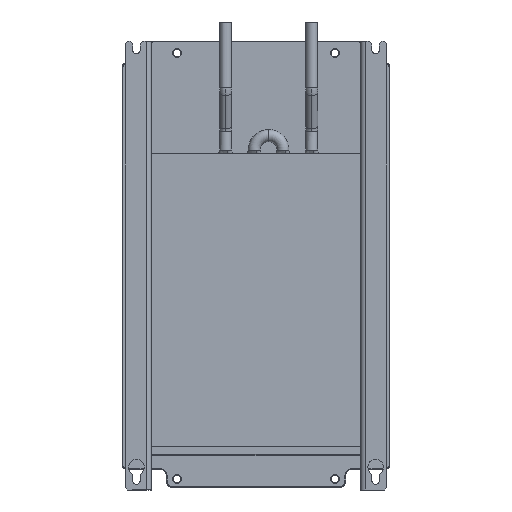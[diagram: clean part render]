
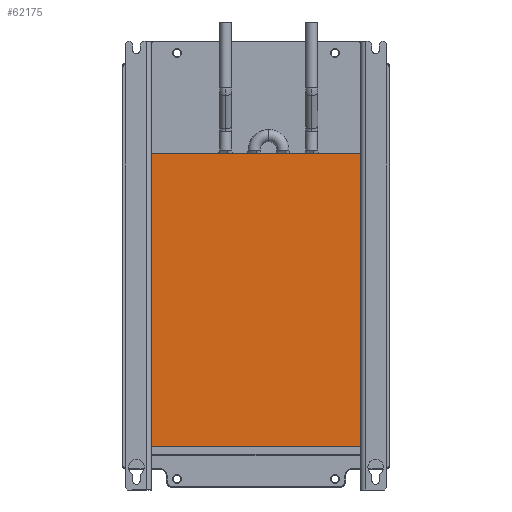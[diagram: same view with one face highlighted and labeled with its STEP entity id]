
A CAD part, front view. The second image highlights one B-rep face of the part: STEP entity #62175.
In plain terms, the highlighted planar face has unit normal (0, -1, 0).
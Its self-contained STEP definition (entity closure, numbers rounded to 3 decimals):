
#1143 = DIRECTION ( 'NONE',  ( -1., 0., 0. ) ) ;
#4448 = EDGE_CURVE ( 'NONE', #68623, #99743, #65743, .T. ) ;
#11358 = DIRECTION ( 'NONE',  ( 0., 0., -1. ) ) ;
#16077 = CARTESIAN_POINT ( 'NONE',  ( -85.5, -21., 94. ) ) ;
#22967 = PLANE ( 'NONE',  #72168 ) ;
#27130 = VERTEX_POINT ( 'NONE', #96114 ) ;
#28055 = CARTESIAN_POINT ( 'NONE',  ( 93.5, -21., 94. ) ) ;
#38966 = DIRECTION ( 'NONE',  ( 0., 1., 0. ) ) ;
#40401 = CARTESIAN_POINT ( 'NONE',  ( 93.5, -21., -151. ) ) ;
#41881 = EDGE_CURVE ( 'NONE', #65585, #27130, #50640, .T. ) ;
#42564 = DIRECTION ( 'NONE',  ( 0., 0., -1. ) ) ;
#44597 = DIRECTION ( 'NONE',  ( -1., 0., 0. ) ) ;
#50640 = LINE ( 'NONE', #82111, #53430 ) ;
#53430 = VECTOR ( 'NONE', #11358, 1000. ) ;
#58591 = CARTESIAN_POINT ( 'NONE',  ( 89.5, -21., 280.507 ) ) ;
#60541 = EDGE_CURVE ( 'NONE', #99743, #27130, #86866, .T. ) ;
#62175 = ADVANCED_FACE ( 'NONE', ( #93695 ), #22967, .F. ) ;
#62303 = EDGE_LOOP ( 'NONE', ( #99671, #64470, #75818, #92264 ) ) ;
#64470 = ORIENTED_EDGE ( 'NONE', *, *, #41881, .T. ) ;
#64715 = CARTESIAN_POINT ( 'NONE',  ( 89.5, -21., 94. ) ) ;
#65585 = VERTEX_POINT ( 'NONE', #16077 ) ;
#65743 = LINE ( 'NONE', #58591, #75575 ) ;
#68293 = LINE ( 'NONE', #28055, #89845 ) ;
#68623 = VERTEX_POINT ( 'NONE', #64715 ) ;
#72168 = AXIS2_PLACEMENT_3D ( 'NONE', #93205, #38966, #78712 ) ;
#75575 = VECTOR ( 'NONE', #42564, 1000. ) ;
#75818 = ORIENTED_EDGE ( 'NONE', *, *, #60541, .F. ) ;
#77091 = EDGE_CURVE ( 'NONE', #68623, #65585, #68293, .T. ) ;
#78712 = DIRECTION ( 'NONE',  ( 1., 0., 0. ) ) ;
#82111 = CARTESIAN_POINT ( 'NONE',  ( -85.5, -21., 280.507 ) ) ;
#86782 = CARTESIAN_POINT ( 'NONE',  ( 89.5, -21., -151. ) ) ;
#86866 = LINE ( 'NONE', #40401, #100074 ) ;
#89845 = VECTOR ( 'NONE', #44597, 1000. ) ;
#92264 = ORIENTED_EDGE ( 'NONE', *, *, #4448, .F. ) ;
#93205 = CARTESIAN_POINT ( 'NONE',  ( 93.5, -21., -151. ) ) ;
#93695 = FACE_OUTER_BOUND ( 'NONE', #62303, .T. ) ;
#96114 = CARTESIAN_POINT ( 'NONE',  ( -85.5, -21., -151. ) ) ;
#99671 = ORIENTED_EDGE ( 'NONE', *, *, #77091, .T. ) ;
#99743 = VERTEX_POINT ( 'NONE', #86782 ) ;
#100074 = VECTOR ( 'NONE', #1143, 1000. ) ;
